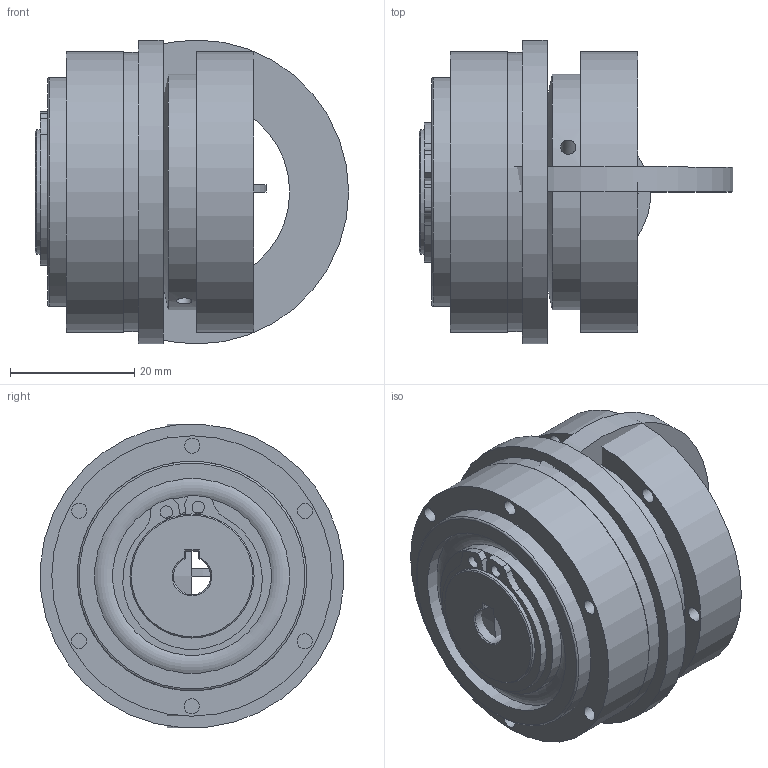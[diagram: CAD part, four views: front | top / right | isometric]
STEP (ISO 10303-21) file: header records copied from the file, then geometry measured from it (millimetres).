
FILE_DESCRIPTION( ( 'Unknown' ), '1' );
FILE_NAME( 'C:/Dokumente und Einstellungen/Sven/Desktop/hp kbk/KBK L-P-10.stp', 'Unknown', ( 'Unknown' ), ( 'Unknown' ), 'XStep 1.0', 'Unknown', ' ' );
FILE_SCHEMA( ( 'automotive_design' ) );
Length unit declared in the file: millimetre
Products named in the file (10): Assem1; Assem2; ball_bearing_-_61904_0_01; ball_bearing_-_61904_0_02; ball_bearing_-_61904_0_03; L-P-10 Grundteil; Stellring 10; Druckring 10; a_20; Flansch L-LL10
Bounding box: 50.5 x 48.87 x 49 mm (x, y, z)
Volume: 69045.8 mm3; surface area: 50949.8 mm2
Topology: 19 solids, 19 shells, 201 faces, 406 edges, 255 vertices
Faces by surface type: cylinder 84, plane 80, torus 25, cone 12
Full cylindrical faces by diameter (mm): 2 x4, 2.459 x16, 19 x2, 20 x7, 24 x4, 25 x2, 25.6 x6, 29 x2, 29.993 x2, 31.4 x6, 37 x5, 38 x2, 40 x2, 45 x2, 45.2 x2, 49 x2
Entity records: 2449 total; most frequent: CARTESIAN_POINT 474, DIRECTION 420, ORIENTED_EDGE 264, AXIS2_PLACEMENT_3D 190, EDGE_LOOP 164, EDGE_CURVE 132, FACE_OUTER_BOUND 129, VERTEX_POINT 108
